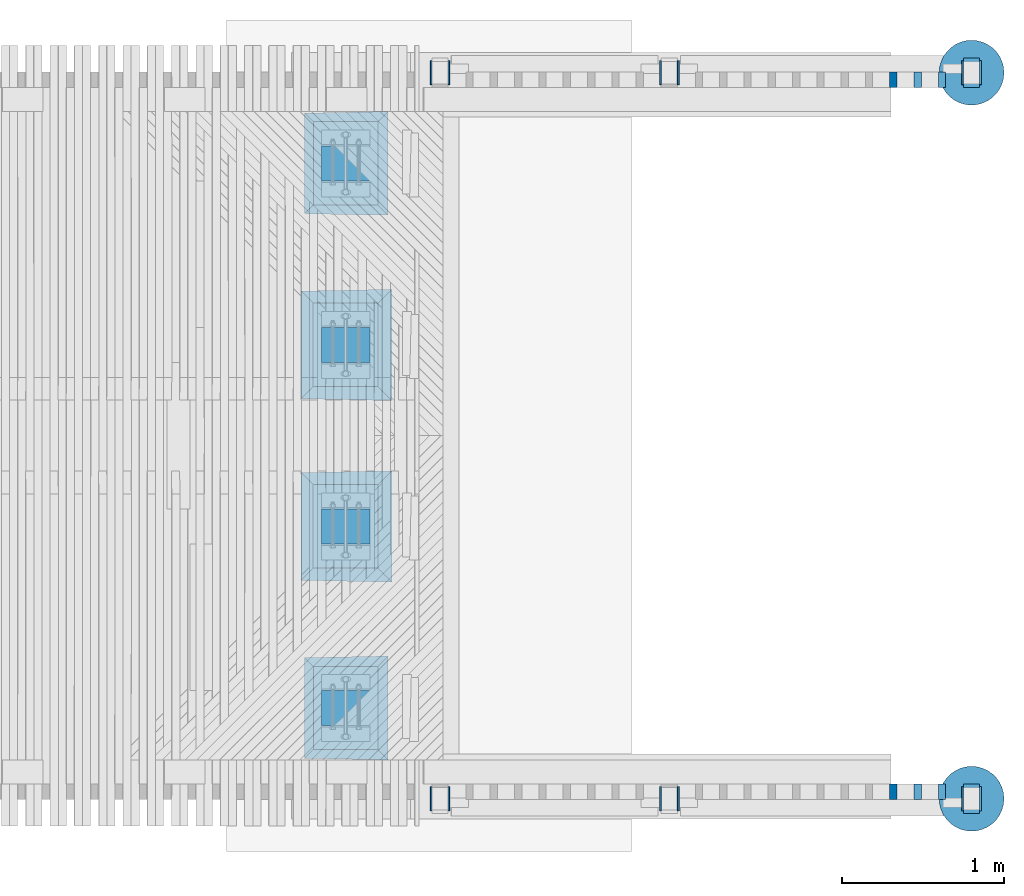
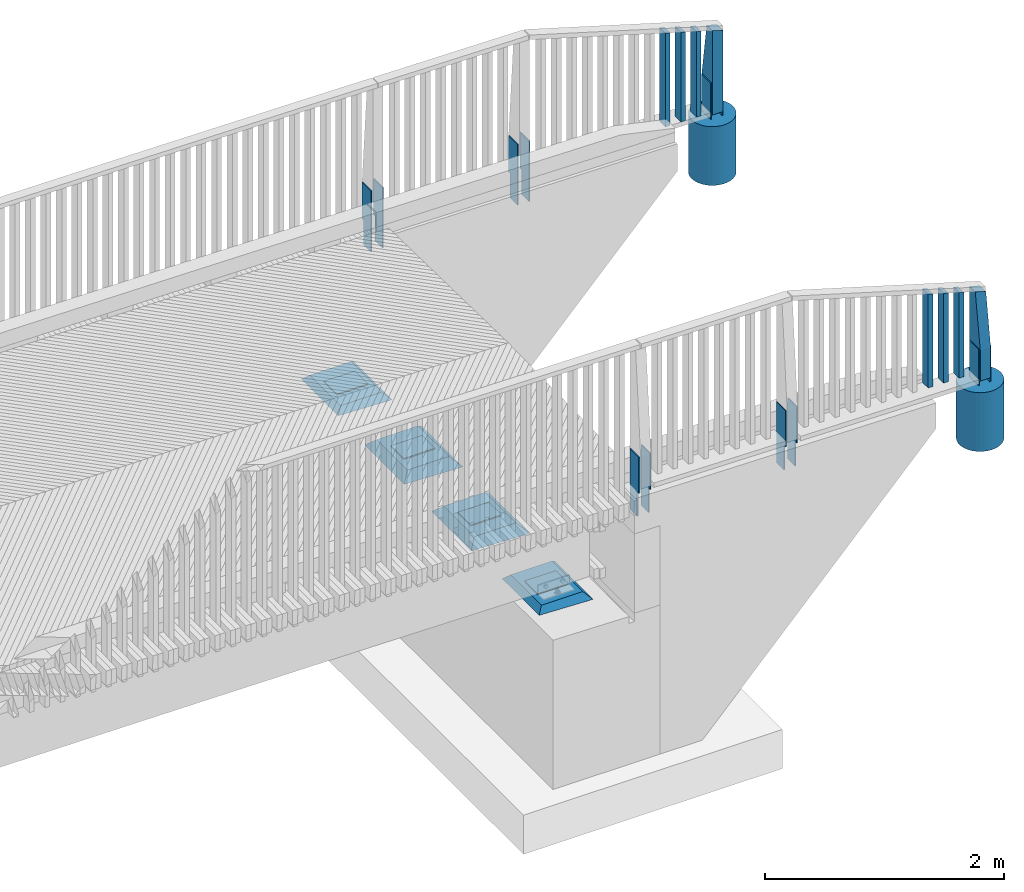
# One storey, part 10 of 47: 30 columns.
"""IFC2X3 building model written with IfcOpenShell, lengths in millimetres."""

from ifc_helpers import new_model, si_unit, frame, origin_with_axes, place, context, subcontext, project, spatial, faceted_brep, material, type_object, element, save


model = new_model("IFC2X3")

# Units and contexts
model_context = context("Model", 3, precision=1e-05, world=origin_with_axes())
body_context = subcontext(model_context, "Body", "Model", "MODEL_VIEW")
ifc_project = project(units=[si_unit("LENGTHUNIT", "METRE", prefix="MILLI"), si_unit("AREAUNIT", "SQUARE_METRE"), si_unit("VOLUMEUNIT", "CUBIC_METRE"), si_unit("MASSUNIT", "GRAM", prefix="KILO"), si_unit("TIMEUNIT", "SECOND"), si_unit("PLANEANGLEUNIT", "RADIAN"), si_unit("SOLIDANGLEUNIT", "STERADIAN"), si_unit("THERMODYNAMICTEMPERATUREUNIT", "DEGREE_CELSIUS"), si_unit("LUMINOUSINTENSITYUNIT", "LUMEN")], contexts=[model_context])

# Site, building, storey
site_placement = place(None, origin_with_axes())
site = spatial("IfcSite", under=ifc_project, at=site_placement, Name="Undefined", CompositionType="ELEMENT")
building_placement = place(site_placement, origin_with_axes())
building = spatial("IfcBuilding", under=site, at=building_placement, Name="Undefined", CompositionType="ELEMENT")
storey_placement = place(building_placement, origin_with_axes())
storey = spatial("IfcBuildingStorey", under=building, at=storey_placement, Name="Undefined", CompositionType="ELEMENT", Elevation=0.0)

# Columns
ifc_material_1 = material(Name="STEEL/AISI316")
column_type_1 = type_object("IfcColumnType", Name="PL150*10", PredefinedType="NOTDEFINED")
for number, where, z_axis, x_axis in (
    (1, (19807.0359349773, 64605.0000000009, 2796.3272174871), (0.0, -1.0, 0.0), (0.0, 0.0, 1.0)),
    (2, (16527.0303763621, 64605.0000000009, 2842.46233696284), (0.0, -1.0, 0.0), (0.0, 0.0, 1.0)),
    (3, (17942.0308358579, 64605.0000000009, 2822.58976226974), (0.0, -1.0, 0.0), (0.0, 0.0, 1.0)),
):
    element("IfcColumn", number, at=place(storey_placement, frame(where, z_axis=z_axis, x_axis=x_axis)), inside=storey, type_object=column_type_1, material=ifc_material_1, Name="KAIDEPYLVÄS", ObjectType="PL150*10", context=body_context, shape_type="Brep", body=[
        faceted_brep([(0.0, -5.0, -50.0), (0.0, 5.0, -50.0), (249.999999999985, 5.0, -50.0), (249.999999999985, -5.0, -50.0), (249.999999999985, -5.0, -75.0), (249.999999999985, 5.0, -75.0), (0.0, 5.0, 75.0), (0.0, -5.0, 75.0), (620.000000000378, -5.0, 75.0), (620.000000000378, 5.0, 75.0), (620.000000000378, -5.0, -75.0), (620.000000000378, 5.0, -75.0)], [[[0, 1, 2, 3]], [[4, 3, 2, 5]], [[6, 7, 8, 9]], [[8, 10, 11, 9]], [[11, 10, 4, 5]], [[1, 6, 9, 11, 5, 2]], [[7, 6, 1, 0]], [[10, 8, 7, 0, 3, 4]]]),
    ])
for number, where, z_axis, x_axis in (
    (4, (19807.0359349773, 60125.0, 2796.3272174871), (0.0, 1.0, 0.0), (0.0, 0.0, 1.0)),
    (5, (16527.0303763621, 60125.0, 2842.46233696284), (0.0, 1.0, 0.0), (0.0, 0.0, 1.0)),
    (6, (17942.0308358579, 60125.0, 2822.58976226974), (0.0, 1.0, 0.0), (0.0, 0.0, 1.0)),
):
    element("IfcColumn", number, at=place(storey_placement, frame(where, z_axis=z_axis, x_axis=x_axis)), inside=storey, type_object=column_type_1, material=ifc_material_1, Name="KAIDEPYLVÄS", ObjectType="PL150*10", context=body_context, shape_type="Brep", body=[
        faceted_brep([(0.0, -5.0, -50.0), (0.0, 5.0, -50.0), (249.999999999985, 5.0, -50.0), (249.999999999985, -5.0, -50.0), (249.999999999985, -5.0, -75.0), (249.999999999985, 5.0, -75.0), (620.000000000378, -5.0, 75.0), (620.000000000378, -5.0, -75.0), (620.000000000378, 5.0, -75.0), (620.000000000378, 5.0, 75.0), (0.0, 5.0, 75.0), (0.0, -5.0, 75.0)], [[[0, 1, 2, 3]], [[4, 3, 2, 5]], [[6, 7, 8, 9]], [[10, 11, 6, 9]], [[11, 10, 1, 0]], [[7, 6, 11, 0, 3, 4]], [[8, 7, 4, 5]], [[1, 10, 9, 8, 5, 2]]]),
    ])
for number, where, z_axis, x_axis in (
    (7, (19917.0359349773, 64605.0000000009, 2796.327217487), (0.0, -1.0, 0.0), (0.0, 0.0, 1.0)),
    (8, (16637.0303763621, 64605.0000000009, 2842.46233696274), (0.0, -1.0, 0.0), (0.0, 0.0, 1.0)),
    (9, (18052.0308358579, 64605.0000000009, 2822.58976226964), (0.0, -1.0, 0.0), (0.0, 0.0, 1.0)),
):
    element("IfcColumn", number, at=place(storey_placement, frame(where, z_axis=z_axis, x_axis=x_axis)), inside=storey, type_object=column_type_1, material=ifc_material_1, Name="KAIDEPYLVÄS", ObjectType="PL150*10", context=body_context, shape_type="Brep", body=[
        faceted_brep([(0.0, -5.0, -50.0), (0.0, 5.0, -50.0), (249.999999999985, 5.0, -50.0), (249.999999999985, -5.0, -50.0), (249.999999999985, -5.0, -75.0), (249.999999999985, 5.0, -75.0), (0.0, 5.0, 75.0), (0.0, -5.0, 75.0), (620.000000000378, -5.0, 75.0), (620.000000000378, 5.0, 75.0), (620.000000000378, -5.0, -75.0), (620.000000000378, 5.0, -75.0)], [[[0, 1, 2, 3]], [[4, 3, 2, 5]], [[6, 7, 8, 9]], [[8, 10, 11, 9]], [[11, 10, 4, 5]], [[1, 6, 9, 11, 5, 2]], [[7, 6, 1, 0]], [[10, 8, 7, 0, 3, 4]]]),
    ])
for number, where, z_axis, x_axis in (
    (10, (19917.0359349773, 60125.0, 2796.327217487), (0.0, 1.0, 0.0), (0.0, 0.0, 1.0)),
    (11, (16637.0303763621, 60125.0, 2842.46233696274), (0.0, 1.0, 0.0), (0.0, 0.0, 1.0)),
    (12, (18052.0308358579, 60125.0, 2822.58976226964), (0.0, 1.0, 0.0), (0.0, 0.0, 1.0)),
):
    element("IfcColumn", number, at=place(storey_placement, frame(where, z_axis=z_axis, x_axis=x_axis)), inside=storey, type_object=column_type_1, material=ifc_material_1, Name="KAIDEPYLVÄS", ObjectType="PL150*10", context=body_context, shape_type="Brep", body=[
        faceted_brep([(0.0, -5.0, -50.0), (0.0, 5.0, -50.0), (249.999999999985, 5.0, -50.0), (249.999999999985, -5.0, -50.0), (249.999999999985, -5.0, -75.0), (249.999999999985, 5.0, -75.0), (620.000000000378, -5.0, 75.0), (620.000000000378, -5.0, -75.0), (620.000000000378, 5.0, -75.0), (620.000000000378, 5.0, 75.0), (0.0, 5.0, 75.0), (0.0, -5.0, 75.0)], [[[0, 1, 2, 3]], [[4, 3, 2, 5]], [[6, 7, 8, 9]], [[10, 11, 6, 9]], [[11, 10, 1, 0]], [[7, 6, 11, 0, 3, 4]], [[8, 7, 4, 5]], [[1, 10, 9, 8, 5, 2]]]),
    ])
ifc_material_2 = material(Name="TIMBER/Timber_Undefined")
column_type_2 = type_object("IfcColumnType", Name="180*100", PredefinedType="NOTDEFINED")
column_1_placement = place(storey_placement, frame((19862.0299992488, 64604.9879081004, 3167.79000000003), z_axis=(0.0, -1.0, 0.0), x_axis=(0.0, 0.0, 1.0)))
element("IfcColumn", 13, at=column_1_placement, inside=storey, type_object=column_type_2, material=ifc_material_2, Name="KAIDEPYLVÄS", ObjectType="180*100", context=body_context, shape_type="Brep", body=[
    faceted_brep([(-71.4700000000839, 50.0, 90.0), (-71.4700000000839, -50.0, 90.0), (760.600236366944, -50.0, 90.0), (790.270209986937, 50.0, 90.0), (-71.4700000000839, -50.0, -90.0), (-71.4700000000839, 50.0, -90.0), (241.710000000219, -50.0, -90.0), (760.600236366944, -50.0, -10.1900961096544), (790.270209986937, 50.0, -5.62659196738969), (241.710000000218, 50.0, -90.0)], [[[0, 1, 2, 3]], [[4, 1, 0, 5]], [[2, 1, 4, 6, 7]], [[3, 2, 7, 8]], [[5, 0, 3, 8, 9]], [[4, 5, 9, 6]], [[8, 7, 6, 9]]]),
])
column_2_placement = place(storey_placement, frame((19862.0299992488, 60125.0120919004, 3167.79000000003), z_axis=(0.0, 1.0, 0.0), x_axis=(0.0, 0.0, 1.0)))
element("IfcColumn", 14, at=column_2_placement, inside=storey, type_object=column_type_2, material=ifc_material_2, Name="KAIDEPYLVÄS", ObjectType="180*100", context=body_context, shape_type="Brep", body=[
    faceted_brep([(-71.4700000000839, -50.0, -90.0), (-71.4700000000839, -50.0, 90.0), (-71.4700000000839, 50.0, 90.0), (-71.4700000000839, 50.0, -90.0), (790.270209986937, -50.0, 90.0), (760.600236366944, 50.0, 90.0), (760.600236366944, 50.0, -10.1900961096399), (241.710000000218, 50.0, -90.0), (241.710000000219, -50.0, -90.0), (790.270209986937, -50.0, -5.62659196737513)], [[[0, 1, 2, 3]], [[2, 1, 4, 5]], [[3, 2, 5, 6, 7]], [[0, 3, 7, 8]], [[4, 1, 0, 8, 9]], [[5, 4, 9, 6]], [[8, 7, 6, 9]]]),
])
column_type_3 = type_object("IfcColumnType", Name="95*45", PredefinedType="NOTDEFINED")
column_3_placement = place(storey_placement, frame((19379.5291836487, 64562.4979081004, 3121.94), z_axis=(0.0, 1.0, 0.0), x_axis=(0.0, 0.0, 1.0)))
element("IfcColumn", 15, at=column_3_placement, inside=storey, type_object=column_type_3, material=ifc_material_2, Name="BEAM", ObjectType="95*45", context=body_context, shape_type="Brep", body=[
    faceted_brep([(11.3263002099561, 22.5, -47.5), (11.3263002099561, 22.5, 47.5), (958.465572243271, 22.5, 47.5), (958.465572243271, 22.5, -47.5), (11.9582159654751, -22.5, 47.5), (971.893186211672, -22.5, 47.5), (11.9582159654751, -22.5, -47.5), (971.893186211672, -22.5, -47.5)], [[[0, 1, 2, 3]], [[1, 4, 5, 2]], [[4, 6, 7, 5]], [[6, 0, 3, 7]], [[5, 7, 3, 2]], [[6, 4, 1, 0]]]),
])
column_4_placement = place(storey_placement, frame((19529.5291836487, 64562.4979081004, 3121.94), z_axis=(0.0, 1.0, 0.0), x_axis=(0.0, 0.0, 1.0)))
element("IfcColumn", 16, at=column_4_placement, inside=storey, type_object=column_type_3, material=ifc_material_2, Name="BEAM", ObjectType="95*45", context=body_context, shape_type="Brep", body=[
    faceted_brep([(9.21991435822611, 22.5, -47.5), (9.21991435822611, 22.5, 47.5), (913.706859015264, 22.5, 47.5), (913.706859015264, 22.5, -47.5), (9.85183011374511, -22.5, 47.5), (927.134472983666, -22.5, 47.5), (9.85183011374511, -22.5, -47.5), (927.134472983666, -22.5, -47.5)], [[[0, 1, 2, 3]], [[1, 4, 5, 2]], [[4, 6, 7, 5]], [[6, 0, 3, 7]], [[5, 7, 3, 2]], [[6, 4, 1, 0]]]),
])
column_5_placement = place(storey_placement, frame((19679.5291836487, 64562.4979081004, 3121.94), z_axis=(0.0, 1.0, 0.0), x_axis=(0.0, 0.0, 1.0)))
element("IfcColumn", 17, at=column_5_placement, inside=storey, type_object=column_type_3, material=ifc_material_2, Name="BEAM", ObjectType="95*45", context=body_context, shape_type="Brep", body=[
    faceted_brep([(7.1135285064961, 22.5, -47.5), (7.1135285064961, 22.5, 47.5), (868.948145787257, 22.5, 47.5), (868.948145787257, 22.5, -47.5), (7.7454442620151, -22.5, 47.5), (882.375759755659, -22.5, 47.5), (7.7454442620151, -22.5, -47.5), (882.375759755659, -22.5, -47.5)], [[[0, 1, 2, 3]], [[1, 4, 5, 2]], [[4, 6, 7, 5]], [[6, 0, 3, 7]], [[5, 7, 3, 2]], [[6, 4, 1, 0]]]),
])
column_6_placement = place(storey_placement, frame((19379.5291836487, 60167.5020919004, 3121.94), z_axis=(0.0, -1.0, 0.0), x_axis=(0.0, 0.0, 1.0)))
element("IfcColumn", 18, at=column_6_placement, inside=storey, type_object=column_type_3, material=ifc_material_2, Name="BEAM", ObjectType="95*45", context=body_context, shape_type="Brep", body=[
    faceted_brep([(11.9582159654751, 22.5, -47.5), (11.9582159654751, 22.5, 47.5), (971.893186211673, 22.5, 47.5), (971.893186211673, 22.5, -47.5), (11.3263002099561, -22.5, 47.5), (958.465572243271, -22.5, 47.5), (11.3263002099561, -22.5, -47.5), (958.465572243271, -22.5, -47.5)], [[[0, 1, 2, 3]], [[1, 4, 5, 2]], [[4, 6, 7, 5]], [[6, 0, 3, 7]], [[5, 7, 3, 2]], [[6, 4, 1, 0]]]),
])
column_7_placement = place(storey_placement, frame((19529.5291836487, 60167.5020919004, 3121.94), z_axis=(0.0, -1.0, 0.0), x_axis=(0.0, 0.0, 1.0)))
element("IfcColumn", 19, at=column_7_placement, inside=storey, type_object=column_type_3, material=ifc_material_2, Name="BEAM", ObjectType="95*45", context=body_context, shape_type="Brep", body=[
    faceted_brep([(9.85183011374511, 22.5, -47.5), (9.85183011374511, 22.5, 47.5), (927.134472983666, 22.5, 47.5), (927.134472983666, 22.5, -47.5), (9.21991435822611, -22.5, 47.5), (913.706859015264, -22.5, 47.5), (9.21991435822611, -22.5, -47.5), (913.706859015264, -22.5, -47.5)], [[[0, 1, 2, 3]], [[1, 4, 5, 2]], [[4, 6, 7, 5]], [[6, 0, 3, 7]], [[5, 7, 3, 2]], [[6, 4, 1, 0]]]),
])
column_8_placement = place(storey_placement, frame((19679.5291836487, 60167.5020919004, 3121.94), z_axis=(0.0, -1.0, 0.0), x_axis=(0.0, 0.0, 1.0)))
element("IfcColumn", 20, at=column_8_placement, inside=storey, type_object=column_type_3, material=ifc_material_2, Name="BEAM", ObjectType="95*45", context=body_context, shape_type="Brep", body=[
    faceted_brep([(7.7454442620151, 22.5, -47.5), (7.7454442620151, 22.5, 47.5), (882.37575975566, 22.5, 47.5), (882.37575975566, 22.5, -47.5), (7.1135285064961, -22.5, 47.5), (868.948145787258, -22.5, 47.5), (7.1135285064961, -22.5, -47.5), (868.948145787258, -22.5, -47.5)], [[[0, 1, 2, 3]], [[1, 4, 5, 2]], [[4, 6, 7, 5]], [[6, 0, 3, 7]], [[5, 7, 3, 2]], [[6, 4, 1, 0]]]),
])
ifc_material_3 = material(Name="CONCRETE/Concrete_Undefined")
column_type_4 = type_object("IfcColumnType", Name="D400", PredefinedType="NOTDEFINED")
column_9_placement = place(storey_placement, frame((19861.9999995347, 64604.9858270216, 2446.32999999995), z_axis=(1.0, 0.0, 0.0), x_axis=(0.0, 0.0, 1.0)))
element("IfcColumn", 21, at=column_9_placement, inside=storey, type_object=column_type_4, material=ifc_material_3, Name="COLUMN", ObjectType="D400", context=body_context, shape_type="Brep", body=[
    faceted_brep([(0.0, -200.0, 0.0), (0.0, -196.961550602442, -34.7296355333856), (600.0, -196.961550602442, -34.7296355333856), (600.0, -200.0, 0.0), (0.0, -187.93852415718, -68.4040286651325), (600.0, -187.93852415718, -68.4040286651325), (0.0, -173.205080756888, -100.0), (600.0, -173.205080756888, -100.0), (0.0, -153.208888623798, -128.55752193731), (600.0, -153.208888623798, -128.55752193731), (0.0, -128.557521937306, -153.208888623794), (600.0, -128.557521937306, -153.208888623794), (0.0, -100.0, -173.205080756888), (600.0, -100.0, -173.205080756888), (0.0, -68.4040286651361, -187.93852415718), (600.0, -68.4040286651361, -187.93852415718), (0.0, -34.7296355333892, -196.961550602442), (600.0, -34.7296355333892, -196.961550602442), (0.0, 0.0, -200.0), (600.0, 0.0, -200.0), (0.0, 34.7296355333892, -196.961550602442), (600.0, 34.7296355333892, -196.961550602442), (0.0, 68.4040286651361, -187.93852415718), (600.0, 68.4040286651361, -187.93852415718), (0.0, 100.0, -173.205080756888), (600.0, 100.0, -173.205080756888), (0.0, 128.557521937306, -153.208888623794), (600.0, 128.557521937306, -153.208888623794), (0.0, 153.208888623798, -128.55752193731), (600.0, 153.208888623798, -128.55752193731), (0.0, 173.205080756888, -100.0), (600.0, 173.205080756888, -100.0), (0.0, 187.93852415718, -68.4040286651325), (600.0, 187.93852415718, -68.4040286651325), (0.0, 196.961550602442, -34.7296355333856), (600.0, 196.961550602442, -34.7296355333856), (0.0, 200.0, 0.0), (600.0, 200.0, 0.0), (0.0, 196.961550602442, 34.7296355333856), (600.0, 196.961550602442, 34.7296355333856), (0.0, 187.93852415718, 68.4040286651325), (600.0, 187.93852415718, 68.4040286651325), (0.0, 173.205080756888, 100.0), (600.0, 173.205080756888, 100.0), (0.0, 153.208888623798, 128.55752193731), (600.0, 153.208888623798, 128.55752193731), (0.0, 128.557521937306, 153.208888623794), (600.0, 128.557521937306, 153.208888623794), (0.0, 100.0, 173.205080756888), (600.0, 100.0, 173.205080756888), (0.0, 68.4040286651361, 187.93852415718), (600.0, 68.4040286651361, 187.93852415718), (0.0, 34.7296355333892, 196.961550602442), (600.0, 34.7296355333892, 196.961550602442), (0.0, 0.0, 200.0), (600.0, 0.0, 200.0), (0.0, -34.7296355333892, 196.961550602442), (600.0, -34.7296355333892, 196.961550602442), (0.0, -68.4040286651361, 187.93852415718), (600.0, -68.4040286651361, 187.93852415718), (0.0, -100.0, 173.205080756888), (600.0, -100.0, 173.205080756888), (0.0, -128.557521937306, 153.208888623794), (600.0, -128.557521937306, 153.208888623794), (0.0, -153.208888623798, 128.55752193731), (600.0, -153.208888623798, 128.55752193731), (0.0, -173.205080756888, 100.0), (600.0, -173.205080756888, 100.0), (0.0, -187.93852415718, 68.4040286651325), (600.0, -187.93852415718, 68.4040286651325), (0.0, -196.961550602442, 34.7296355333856), (600.0, -196.961550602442, 34.7296355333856)], [[[0, 1, 2, 3]], [[1, 4, 5, 2]], [[4, 6, 7, 5]], [[6, 8, 9, 7]], [[8, 10, 11, 9]], [[10, 12, 13, 11]], [[12, 14, 15, 13]], [[14, 16, 17, 15]], [[16, 18, 19, 17]], [[18, 20, 21, 19]], [[20, 22, 23, 21]], [[22, 24, 25, 23]], [[24, 26, 27, 25]], [[26, 28, 29, 27]], [[28, 30, 31, 29]], [[30, 32, 33, 31]], [[32, 34, 35, 33]], [[34, 36, 37, 35]], [[36, 38, 39, 37]], [[38, 40, 41, 39]], [[40, 42, 43, 41]], [[42, 44, 45, 43]], [[44, 46, 47, 45]], [[46, 48, 49, 47]], [[48, 50, 51, 49]], [[50, 52, 53, 51]], [[52, 54, 55, 53]], [[54, 56, 57, 55]], [[56, 58, 59, 57]], [[58, 60, 61, 59]], [[60, 62, 63, 61]], [[62, 64, 65, 63]], [[64, 66, 67, 65]], [[66, 68, 69, 67]], [[68, 70, 71, 69]], [[70, 0, 3, 71]], [[5, 7, 9, 11, 13, 15, 17, 19, 21, 23, 25, 27, 29, 31, 33, 35, 37, 39, 41, 43, 45, 47, 49, 51, 53, 55, 57, 59, 61, 63, 65, 67, 69, 71, 3, 2]], [[70, 68, 66, 64, 62, 60, 58, 56, 54, 52, 50, 48, 46, 44, 42, 40, 38, 36, 34, 32, 30, 28, 26, 24, 22, 20, 18, 16, 14, 12, 10, 8, 6, 4, 1, 0]]]),
])
column_10_placement = place(storey_placement, frame((19861.9999995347, 60125.0141729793, 2446.32999999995), z_axis=(1.0, 0.0, 0.0), x_axis=(0.0, 0.0, 1.0)))
element("IfcColumn", 22, at=column_10_placement, inside=storey, type_object=column_type_4, material=ifc_material_3, Name="COLUMN", ObjectType="D400", context=body_context, shape_type="Brep", body=[
    faceted_brep([(0.0, -200.0, 0.0), (0.0, -196.961550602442, -34.7296355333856), (600.0, -196.961550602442, -34.7296355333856), (600.0, -200.0, 0.0), (0.0, -187.93852415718, -68.4040286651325), (600.0, -187.93852415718, -68.4040286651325), (0.0, -173.205080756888, -100.0), (600.0, -173.205080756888, -100.0), (0.0, -153.208888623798, -128.55752193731), (600.0, -153.208888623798, -128.55752193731), (0.0, -128.557521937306, -153.208888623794), (600.0, -128.557521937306, -153.208888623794), (0.0, -100.0, -173.205080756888), (600.0, -100.0, -173.205080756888), (0.0, -68.4040286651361, -187.93852415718), (600.0, -68.4040286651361, -187.93852415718), (0.0, -34.7296355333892, -196.961550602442), (600.0, -34.7296355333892, -196.961550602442), (0.0, 0.0, -200.0), (600.0, 0.0, -200.0), (0.0, 34.7296355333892, -196.961550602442), (600.0, 34.7296355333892, -196.961550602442), (0.0, 68.4040286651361, -187.93852415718), (600.0, 68.4040286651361, -187.93852415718), (0.0, 100.0, -173.205080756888), (600.0, 100.0, -173.205080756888), (0.0, 128.557521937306, -153.208888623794), (600.0, 128.557521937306, -153.208888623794), (0.0, 153.208888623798, -128.55752193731), (600.0, 153.208888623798, -128.55752193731), (0.0, 173.205080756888, -100.0), (600.0, 173.205080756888, -100.0), (0.0, 187.93852415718, -68.4040286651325), (600.0, 187.93852415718, -68.4040286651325), (0.0, 196.961550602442, -34.7296355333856), (600.0, 196.961550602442, -34.7296355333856), (0.0, 200.0, 0.0), (600.0, 200.0, 0.0), (0.0, 196.961550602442, 34.7296355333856), (600.0, 196.961550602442, 34.7296355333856), (0.0, 187.93852415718, 68.4040286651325), (600.0, 187.93852415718, 68.4040286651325), (0.0, 173.205080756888, 100.0), (600.0, 173.205080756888, 100.0), (0.0, 153.208888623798, 128.55752193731), (600.0, 153.208888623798, 128.55752193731), (0.0, 128.557521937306, 153.208888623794), (600.0, 128.557521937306, 153.208888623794), (0.0, 100.0, 173.205080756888), (600.0, 100.0, 173.205080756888), (0.0, 68.4040286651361, 187.93852415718), (600.0, 68.4040286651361, 187.93852415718), (0.0, 34.7296355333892, 196.961550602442), (600.0, 34.7296355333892, 196.961550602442), (0.0, 0.0, 200.0), (600.0, 0.0, 200.0), (0.0, -34.7296355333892, 196.961550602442), (600.0, -34.7296355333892, 196.961550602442), (0.0, -68.4040286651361, 187.93852415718), (600.0, -68.4040286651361, 187.93852415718), (0.0, -100.0, 173.205080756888), (600.0, -100.0, 173.205080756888), (0.0, -128.557521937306, 153.208888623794), (600.0, -128.557521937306, 153.208888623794), (0.0, -153.208888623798, 128.55752193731), (600.0, -153.208888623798, 128.55752193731), (0.0, -173.205080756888, 100.0), (600.0, -173.205080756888, 100.0), (0.0, -187.93852415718, 68.4040286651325), (600.0, -187.93852415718, 68.4040286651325), (0.0, -196.961550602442, 34.7296355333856), (600.0, -196.961550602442, 34.7296355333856)], [[[0, 1, 2, 3]], [[1, 4, 5, 2]], [[4, 6, 7, 5]], [[6, 8, 9, 7]], [[8, 10, 11, 9]], [[10, 12, 13, 11]], [[12, 14, 15, 13]], [[14, 16, 17, 15]], [[16, 18, 19, 17]], [[18, 20, 21, 19]], [[20, 22, 23, 21]], [[22, 24, 25, 23]], [[24, 26, 27, 25]], [[26, 28, 29, 27]], [[28, 30, 31, 29]], [[30, 32, 33, 31]], [[32, 34, 35, 33]], [[34, 36, 37, 35]], [[36, 38, 39, 37]], [[38, 40, 41, 39]], [[40, 42, 43, 41]], [[42, 44, 45, 43]], [[44, 46, 47, 45]], [[46, 48, 49, 47]], [[48, 50, 51, 49]], [[50, 52, 53, 51]], [[52, 54, 55, 53]], [[54, 56, 57, 55]], [[56, 58, 59, 57]], [[58, 60, 61, 59]], [[60, 62, 63, 61]], [[62, 64, 65, 63]], [[64, 66, 67, 65]], [[66, 68, 69, 67]], [[68, 70, 71, 69]], [[70, 0, 3, 71]], [[5, 7, 9, 11, 13, 15, 17, 19, 21, 23, 25, 27, 29, 31, 33, 35, 37, 39, 41, 43, 45, 47, 49, 51, 53, 55, 57, 59, 61, 63, 65, 67, 69, 71, 3, 2]], [[70, 68, 66, 64, 62, 60, 58, 56, 54, 52, 50, 48, 46, 44, 42, 40, 38, 36, 34, 32, 30, 28, 26, 24, 22, 20, 18, 16, 14, 12, 10, 8, 6, 4, 1, 0]]]),
])
column_type_5 = type_object("IfcColumnType", Name="570*685", PredefinedType="NOTDEFINED")
for number, where, z_axis, x_axis, name in (
    (23, (16000.0, 62925.0000000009, 1922.0), (1.0, 0.0, 0.0), (0.0, 0.0, 1.0), "COLUMN"),
    (24, (16000.0, 61805.0, 1922.0), (1.0, 0.0, 0.0), (0.0, 0.0, 1.0), "COLUMN"),
):
    element("IfcColumn", number, at=place(storey_placement, frame(where, z_axis=z_axis, x_axis=x_axis)), inside=storey, type_object=column_type_5, material=ifc_material_3, Name=name, ObjectType="570*685", context=body_context, shape_type="Brep", body=[
        faceted_brep([(-9.52281374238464, -342.5, 285.0), (75.3299999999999, -257.647186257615, 200.147186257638), (75.3299999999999, 257.647186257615, 200.147186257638), (-9.52281374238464, 342.5, 285.0), (75.3299999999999, -257.647186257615, -200.147186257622), (0.770343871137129, -332.206842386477, -274.706842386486), (0.770343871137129, 332.206842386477, -274.706842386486), (75.3299999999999, 257.647186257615, -200.147186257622), (-9.52281374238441, -342.5, 229.657872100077), (-10.6522449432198, -342.5, 285.0), (-10.6522449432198, 342.5, 285.0), (-9.52281374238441, 342.5, 229.657872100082)], [[[0, 1, 2, 3]], [[4, 5, 6, 7]], [[5, 8, 9, 10, 11, 6]], [[9, 8, 0]], [[10, 9, 0, 3]], [[10, 3, 11]], [[7, 6, 11, 3, 2]], [[4, 7, 2, 1]], [[8, 5, 4, 1, 0]]]),
    ])
column_type_6 = type_object("IfcColumnType", Name="524*639", PredefinedType="NOTDEFINED")
for number, where, z_axis, x_axis, name in (
    (25, (16000.0, 64045.0000000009, 1900.0), (1.0, 0.0, 0.0), (0.0, 0.0, 1.0), "COLUMN"),
    (26, (16000.0, 60685.0, 1900.0), (1.0, 0.0, 0.0), (0.0, 0.0, 1.0), "COLUMN"),
):
    element("IfcColumn", number, at=place(storey_placement, frame(where, z_axis=z_axis, x_axis=x_axis)), inside=storey, type_object=column_type_6, material=ifc_material_3, Name=name, ObjectType="524*639", context=body_context, shape_type="Brep", body=[
        faceted_brep([(13.1046032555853, -319.5, 262.0), (75.3299999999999, -257.274603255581, 199.774603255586), (75.3299999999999, 257.274603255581, 199.774603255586), (13.1046032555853, 319.5, 262.0), (75.3299999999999, -257.274603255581, -199.774603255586), (22.3220922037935, -310.282511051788, -252.782511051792), (22.3220922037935, 310.282511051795, -252.782511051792), (75.3299999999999, 257.274603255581, -199.774603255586), (13.1046032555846, -319.5, 198.874439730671), (11.816326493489, -319.5, 262.0), (11.816326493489, 319.5, 262.0), (13.1046032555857, 319.5, 198.874439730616)], [[[0, 1, 2, 3]], [[4, 5, 6, 7]], [[5, 8, 9, 10, 11, 6]], [[9, 8, 0]], [[10, 9, 0, 3]], [[10, 3, 11]], [[7, 6, 11, 3, 2]], [[4, 7, 2, 1]], [[8, 5, 4, 1, 0]]]),
    ])
ifc_material_4 = material(Name="MISCELLANEOUS/NEOPREENI")
column_type_7 = type_object("IfcColumnType", Name="PL300*215", PredefinedType="NOTDEFINED")
for number, where, z_axis, x_axis, name in (
    (27, (16000.0, 64045.0, 1975.33), (1.0, 0.0, 0.0), (0.0, 0.0, 1.0), "COLUMN"),
    (28, (16000.0, 62925.0, 1997.33), (1.0, 0.0, 0.0), (0.0, 0.0, 1.0), "COLUMN"),
    (29, (16000.0, 61805.0, 1997.33), (1.0, 0.0, 0.0), (0.0, 0.0, 1.0), "COLUMN"),
    (30, (16000.0, 60685.0, 1975.33), (1.0, 0.0, 0.0), (0.0, 0.0, 1.0), "COLUMN"),
):
    element("IfcColumn", number, at=place(storey_placement, frame(where, z_axis=z_axis, x_axis=x_axis)), inside=storey, type_object=column_type_7, material=ifc_material_4, Name=name, ObjectType="PL300*215", context=body_context, shape_type="Brep", body=[
        faceted_brep([(0.0, 107.5, -150.0), (0.0, 107.5, 150.0), (10.0, 107.5, 150.0), (10.0, 107.5, -150.0), (0.0, -107.5, 150.0), (10.0, -107.5, 150.0), (0.0, -107.5, -150.0), (10.0, -107.5, -150.0)], [[[0, 1, 2, 3]], [[1, 4, 5, 2]], [[4, 6, 7, 5]], [[6, 0, 3, 7]], [[5, 7, 3, 2]], [[6, 4, 1, 0]]]),
    ])

save(model, "model.ifc")
